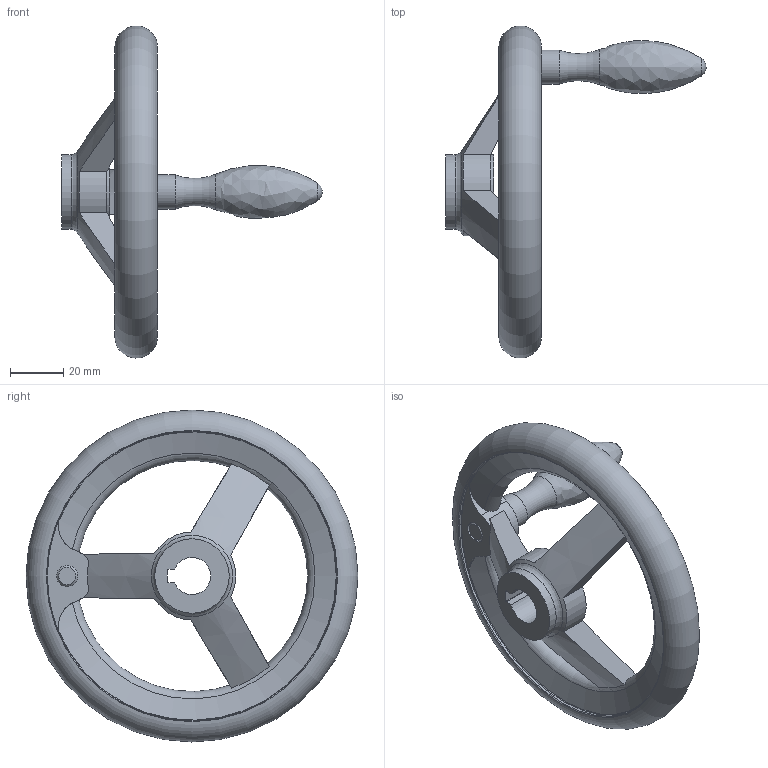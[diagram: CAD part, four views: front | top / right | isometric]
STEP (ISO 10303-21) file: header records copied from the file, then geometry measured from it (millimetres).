
FILE_DESCRIPTION( ( 'STEP AP203' ), '1' );
FILE_NAME( 'C:/Temp/Ganter_Step_05_03_2020/data/1_3/din_950/din_950_k/din_950_k_f/Handwheel DIN 950-AL-125-K14-F.stp', '2020-03-05T10:31:12', ( 'License CC BY-ND 4.0' ), ( 'CADENAS' ), ' ', 'PARTsolutions', ' ' );
FILE_SCHEMA( ( 'CONFIG_CONTROL_DESIGN' ) );
Length unit declared in the file: millimetre
Products named in the file (1): _Handwheel DIN 950-AL-125-K14-F
Bounding box: 98 x 124.98 x 124.98 mm (x, y, z)
Volume: 103770.2 mm3; surface area: 29652.6 mm2
Topology: 1 solids, 1 shells, 49 faces, 139 edges, 89 vertices
Faces by surface type: cylinder 17, plane 14, torus 11, cone 5, sphere 1, bspline 1
Full cylindrical faces by diameter (mm): 8 x1, 12.8 x1, 28 x2, 109 x2
Entity records: 1817 total; most frequent: CARTESIAN_POINT 643, DIRECTION 224, ORIENTED_EDGE 224, EDGE_CURVE 112, AXIS2_PLACEMENT_3D 100, VERTEX_POINT 83, EDGE_LOOP 73, FACE_OUTER_BOUND 64
